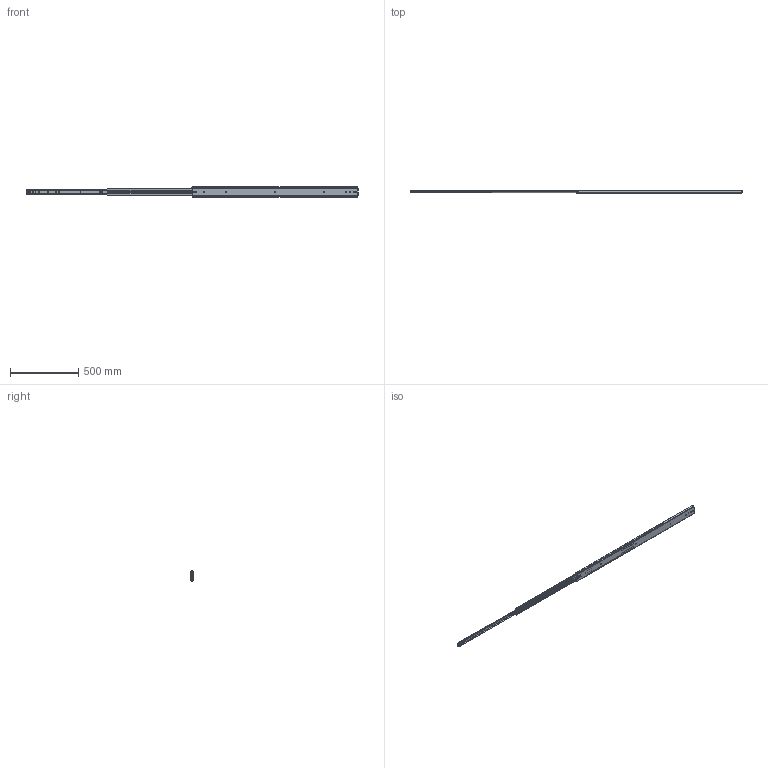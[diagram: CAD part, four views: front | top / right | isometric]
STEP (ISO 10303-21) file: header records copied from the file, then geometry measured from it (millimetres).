
FILE_DESCRIPTION((''),'2;1');
FILE_NAME('DG-76-02-48_ASM','2023-05-15T',('jishu015'),(''),'PRO/ENGINEER BY PARAMETRIC TECHNOLOGY CORPORATION, 2010280','PRO/ENGINEER BY PARAMETRIC TECHNOLOGY CORPORATION, 2010280','');
FILE_SCHEMA(('CONFIG_CONTROL_DESIGN'));
Length unit declared in the file: millimetre
Products named in the file (18): KP-76-04WAIKE3_____; 1076-WAIKEZIDANJIAO3_____; WAIK72______ASM; 1076XIAOZHUTIAO1_____; 163_____; 1076XIAOZHUTIAO1______ASM; KP-76-04ZHONGGUI3_____; 76CHANGGUIZHONGGUIJIAO3_____; 3X6WODIN3_____; PJ-76-33_____; 76-XIAOZHUJIA3_____; GANGZHU-XIAO3_____; ZHUJIA-XIAO3______ASM; ZHONGGUI3______ASM; KP-76-04NEIGUI3_____; XIN-TANPIAN_____; NEIGUI3______ASM; DG-76-02-48_ASM
Assembly tree (85 placements, depth 4):
  DG-76-02-48_ASM
    WAIK72______ASM
      KP-76-04WAIKE3_____
      1076-WAIKEZIDANJIAO3_____  x2
    1076XIAOZHUTIAO1______ASM  x2
      1076XIAOZHUTIAO1_____
      163_____
    ZHONGGUI3______ASM
      KP-76-04ZHONGGUI3_____
      76CHANGGUIZHONGGUIJIAO3_____
      3X6WODIN3_____
      PJ-76-33_____
      ZHUJIA-XIAO3______ASM
        76-XIAOZHUJIA3_____
        GANGZHU-XIAO3_____  x46
    NEIGUI3______ASM
      KP-76-04NEIGUI3_____
      XIN-TANPIAN_____
Bounding box: 2438.4 x 19.5 x 75.3 mm (x, y, z)
Volume: 796464.7 mm3; surface area: 765098.9 mm2
Topology: 102 solids, 102 shells, 2140 faces, 6740 edges, 4237 vertices
Faces by surface type: plane 1163, cylinder 704, sphere 182, extrusion 69, cone 18, bspline 4
Entity records: 64384 total; most frequent: CARTESIAN_POINT 15088, ORIENTED_EDGE 10940, DIRECTION 9581, EDGE_CURVE 5470, VERTEX_POINT 3573, AXIS2_PLACEMENT_3D 3207, VECTOR 3167, LINE 3098
